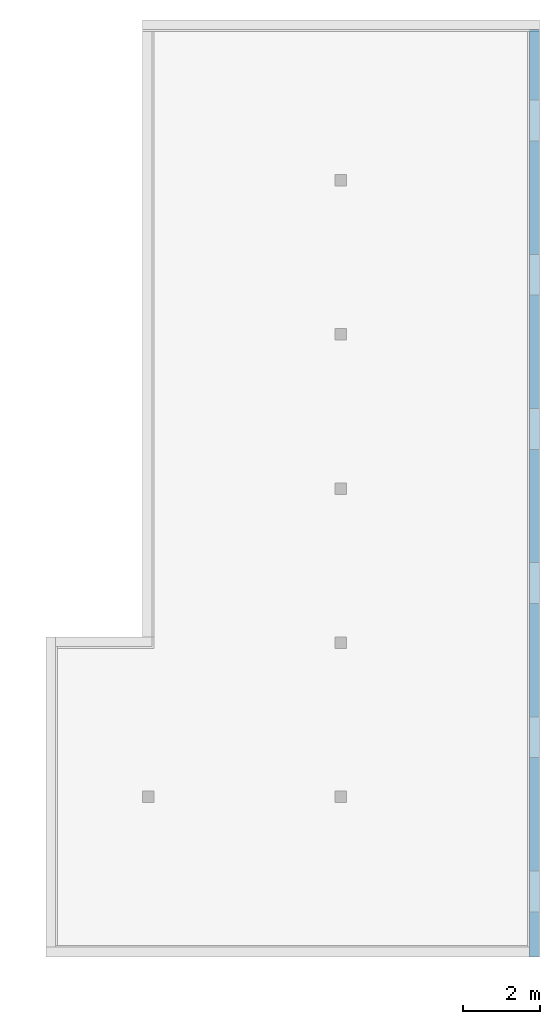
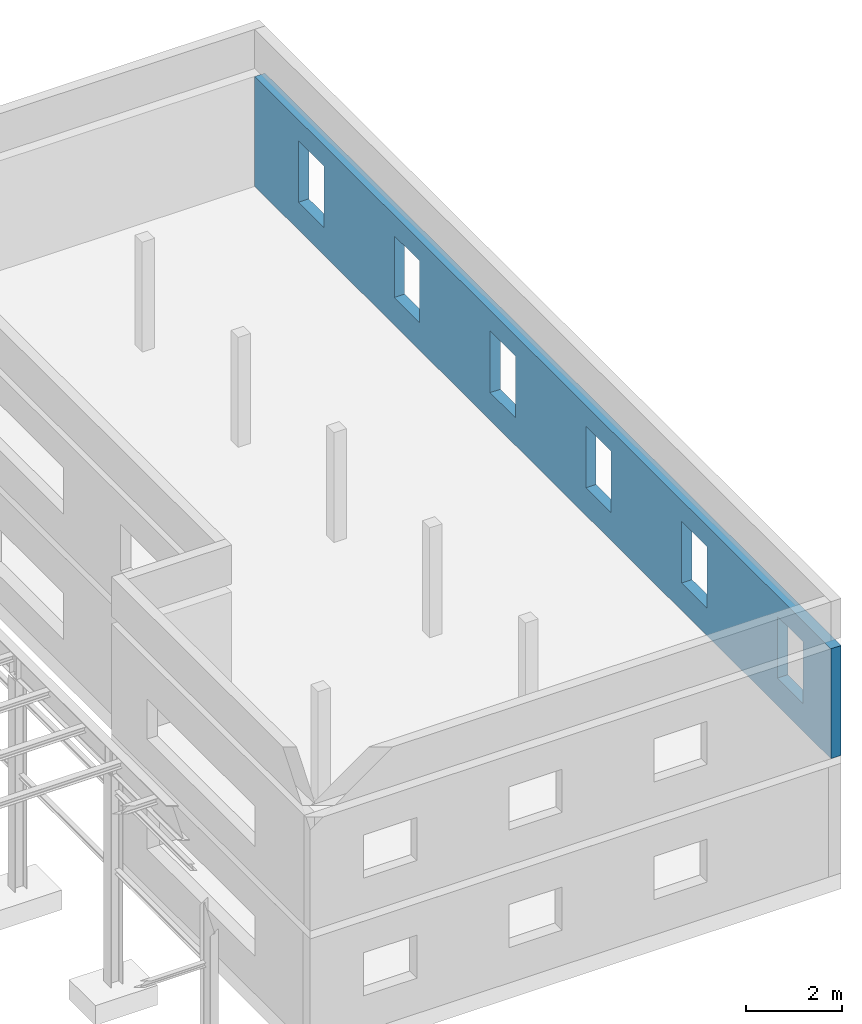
# Not in any storey, part 14 of 50: 1 wall, 6 openings.
"""IFC4 model written with IfcOpenShell, lengths in metres."""

from ifc_helpers import new_model, entity, si_unit, converted_unit, derived_unit, direction, frame, origin, place, context, subcontext, project, spatial, indexed_curve, outline, extrude, polygons, material, type_object, element, save


model = new_model("IFC4")

# Units and contexts
model_context = context("Model", 3, precision=1e-05, world=origin(), true_north=direction((6.123233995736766e-17, 1.0)))
body_context = subcontext(model_context, "Body", "Model", "MODEL_VIEW")
ifc_project = project(units=[si_unit("LENGTHUNIT", "METRE"), si_unit("AREAUNIT", "SQUARE_METRE"), converted_unit("PLANEANGLEUNIT", "DEGREE", entity("IfcPlaneAngleMeasure", 0.017453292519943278), si_unit("PLANEANGLEUNIT", "RADIAN"), dimensions=[0, 0, 0, 0, 0, 0, 0]), si_unit("VOLUMEUNIT", "CUBIC_METRE"), derived_unit("THERMALTRANSMITTANCEUNIT", [(si_unit("MASSUNIT", "GRAM", prefix="KILO"), 1), (si_unit("THERMODYNAMICTEMPERATUREUNIT", "KELVIN"), -1), (si_unit("TIMEUNIT", "SECOND"), -3)])], contexts=[model_context])

# Site
site_placement = place(None, origin())
site = spatial("IfcSite", under=ifc_project, at=site_placement, Name="Default", CompositionType="ELEMENT")

# Wall, openings
ifc_material = material(Name="Ortbeton - bewehrt Verputzt", Category="Generisch")
wall_type = type_object("IfcWallType", Name="Basiswand:STB 250", PredefinedType="STANDARD")
wall_placement = place(site_placement, frame((38.2151448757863, 25.838267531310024, 3.0), z_axis=(0.0, 0.0, 1.0), x_axis=(0.0, -1.0, 0.0)))
wall = element("IfcWall", 1, at=wall_placement, inside=site, type_object=wall_type, material=ifc_material, Name="Basiswand:STB 250", ObjectType="Basiswand:STB 250", PredefinedType="NOTDEFINED", context=body_context, shape_type="Tessellation", body=[
    polygons([(0.0, -0.1249999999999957, 0.0), (23.808500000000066, -0.12499999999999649, 0.0), (24.058500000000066, -0.12499999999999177, 0.0), (24.058500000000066, -0.12499999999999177, 2.8000000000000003), (23.808500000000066, -0.12499999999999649, 2.8000000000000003), (0.0, -0.1249999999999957, 2.8000000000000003), (21.83079737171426, -0.12499999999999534, 2.274516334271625), (22.8909072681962, -0.1250000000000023, 2.274516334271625), (22.8909072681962, -0.1250000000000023, 0.7032821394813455), (21.83079737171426, -0.12499999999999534, 0.7032821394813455), (17.83079737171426, -0.12499999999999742, 2.274516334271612), (18.8909072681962, -0.12499999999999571, 2.274516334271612), (18.8909072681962, -0.12499999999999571, 0.7032821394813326), (17.83079737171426, -0.12499999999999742, 0.7032821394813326), (13.830797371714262, -0.1249999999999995, 2.274516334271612), (14.8909072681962, -0.12499999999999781, 2.274516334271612), (14.8909072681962, -0.12499999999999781, 0.7032821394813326), (13.830797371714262, -0.1249999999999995, 0.7032821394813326), (9.830797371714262, -0.12499999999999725, 2.274516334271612), (10.8909072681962, -0.12499999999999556, 2.274516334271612), (10.8909072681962, -0.12499999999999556, 0.7032821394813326), (9.830797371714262, -0.12499999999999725, 0.7032821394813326), (5.830797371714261, -0.12499999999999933, 2.274516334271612), (6.890907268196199, -0.12499999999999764, 2.274516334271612), (6.890907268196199, -0.12499999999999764, 0.7032821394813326), (5.830797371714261, -0.12499999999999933, 0.7032821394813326), (1.8307973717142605, -0.12500000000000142, 2.274516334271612), (2.890907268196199, -0.12499999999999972, 2.274516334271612), (2.890907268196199, -0.12499999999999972, 0.7032821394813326), (1.8307973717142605, -0.12500000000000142, 0.7032821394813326), (24.058500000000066, 0.1250000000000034, 0.0), (0.0, 0.12500000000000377, 0.0), (0.0, 0.12500000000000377, 2.8000000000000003), (24.058500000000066, 0.1250000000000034, 2.8000000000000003), (22.8909072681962, 0.12500000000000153, 2.274516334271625), (21.83079737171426, 0.12500000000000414, 2.274516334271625), (21.83079737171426, 0.12500000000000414, 0.7032821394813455), (22.8909072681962, 0.12500000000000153, 0.7032821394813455), (18.8909072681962, 0.12500000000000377, 2.274516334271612), (17.83079737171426, 0.12500000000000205, 2.274516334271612), (17.83079737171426, 0.12500000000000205, 0.7032821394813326), (18.8909072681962, 0.12500000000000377, 0.7032821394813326), (14.8909072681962, 0.125000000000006, 2.274516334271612), (13.830797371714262, 0.1250000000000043, 2.274516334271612), (13.830797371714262, 0.1250000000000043, 0.7032821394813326), (14.8909072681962, 0.125000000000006, 0.7032821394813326), (10.8909072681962, 0.1250000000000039, 2.274516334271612), (9.830797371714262, 0.12500000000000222, 2.274516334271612), (9.830797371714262, 0.12500000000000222, 0.7032821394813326), (10.8909072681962, 0.1250000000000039, 0.7032821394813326), (6.890907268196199, 0.12500000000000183, 2.274516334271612), (5.830797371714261, 0.12500000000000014, 2.274516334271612), (5.830797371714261, 0.12500000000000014, 0.7032821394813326), (6.890907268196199, 0.12500000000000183, 0.7032821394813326), (2.890907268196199, 0.12500000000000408, 2.274516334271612), (1.8307973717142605, 0.1250000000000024, 2.274516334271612), (1.8307973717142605, 0.1250000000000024, 0.7032821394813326), (2.890907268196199, 0.12500000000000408, 0.7032821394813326)], [[[1, 2, 3, 4, 5, 6], [7, 8, 9, 10], [11, 12, 13, 14], [15, 16, 17, 18], [19, 20, 21, 22], [23, 24, 25, 26], [27, 28, 29, 30]], [[31, 32, 33, 34], [35, 36, 37, 38], [39, 40, 41, 42], [43, 44, 45, 46], [47, 48, 49, 50], [51, 52, 53, 54], [55, 56, 57, 58]], [[3, 2, 1, 32, 31]], [[1, 6, 33, 32]], [[4, 3, 31, 34]], [[6, 5, 4, 34, 33]], [[7, 36, 35, 8]], [[9, 38, 37, 10]], [[36, 7, 10, 37]], [[8, 35, 38, 9]], [[11, 40, 39, 12]], [[13, 42, 41, 14]], [[40, 11, 14, 41]], [[12, 39, 42, 13]], [[15, 44, 43, 16]], [[17, 46, 45, 18]], [[44, 15, 18, 45]], [[16, 43, 46, 17]], [[19, 48, 47, 20]], [[21, 50, 49, 22]], [[48, 19, 22, 49]], [[20, 47, 50, 21]], [[23, 52, 51, 24]], [[25, 54, 53, 26]], [[52, 23, 26, 53]], [[24, 51, 54, 25]], [[27, 56, 55, 28]], [[29, 58, 57, 30]], [[56, 27, 30, 57]], [[28, 55, 58, 29]]], closed=True),
])
opening_1_placement = place(wall_placement, origin())
element("IfcOpeningElement", 2, at=opening_1_placement, cuts=wall, Name="Basiswand:STB 250", PredefinedType="OPENING", context=body_context, shape_type="SweptSolid", body=[
    extrude(outline(indexed_curve([(-0.78561709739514, -0.5300549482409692), (0.78561709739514, -0.5300549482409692), (0.78561709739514, 0.5300549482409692), (-0.78561709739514, 0.5300549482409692), (-0.78561709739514, -0.5300549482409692)], self_intersect=False)), frame((22.36085231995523, -0.12499999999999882, 1.488899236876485), z_axis=(0.0, 1.0, 0.0), x_axis=(0.0, 0.0, -1.0)), (0.0, 0.0, 1.0), 0.24999999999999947),
])
opening_2_placement = place(wall_placement, origin())
element("IfcOpeningElement", 3, at=opening_2_placement, cuts=wall, Name="Basiswand:STB 250", PredefinedType="OPENING", context=body_context, shape_type="SweptSolid", body=[
    extrude(outline(indexed_curve([(-0.78561709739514, -0.5300549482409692), (0.78561709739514, -0.5300549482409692), (0.78561709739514, 0.5300549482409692), (-0.78561709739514, 0.5300549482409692), (-0.78561709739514, -0.5300549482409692)], self_intersect=False)), frame((18.36085231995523, -0.12500000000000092, 1.488899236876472), z_axis=(0.0, 1.0, 0.0), x_axis=(0.0, 0.0, -1.0)), (0.0, 0.0, 1.0), 0.25000000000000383),
])
opening_3_placement = place(wall_placement, origin())
element("IfcOpeningElement", 4, at=opening_3_placement, cuts=wall, Name="Basiswand:STB 250", PredefinedType="OPENING", context=body_context, shape_type="SweptSolid", body=[
    extrude(outline(indexed_curve([(-0.78561709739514, -0.5300549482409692), (0.78561709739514, -0.5300549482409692), (0.78561709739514, 0.5300549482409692), (-0.78561709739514, 0.5300549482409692), (-0.78561709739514, -0.5300549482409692)], self_intersect=False)), frame((14.36085231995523, -0.125000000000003, 1.488899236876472), z_axis=(0.0, 1.0, 0.0), x_axis=(0.0, 0.0, -1.0)), (0.0, 0.0, 1.0), 0.24999999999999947),
])
opening_4_placement = place(wall_placement, origin())
element("IfcOpeningElement", 5, at=opening_4_placement, cuts=wall, Name="Basiswand:STB 250", PredefinedType="OPENING", context=body_context, shape_type="SweptSolid", body=[
    extrude(outline(indexed_curve([(-0.78561709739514, -0.5300549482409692), (0.78561709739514, -0.5300549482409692), (0.78561709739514, 0.5300549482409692), (-0.78561709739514, 0.5300549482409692), (-0.78561709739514, -0.5300549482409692)], self_intersect=False)), frame((10.36085231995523, -0.12500000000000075, 1.488899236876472), z_axis=(0.0, 1.0, 0.0), x_axis=(0.0, 0.0, -1.0)), (0.0, 0.0, 1.0), 0.25000000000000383),
])
opening_5_placement = place(wall_placement, origin())
element("IfcOpeningElement", 6, at=opening_5_placement, cuts=wall, Name="Basiswand:STB 250", PredefinedType="OPENING", context=body_context, shape_type="SweptSolid", body=[
    extrude(outline(indexed_curve([(-0.78561709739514, -0.5300549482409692), (0.78561709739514, -0.5300549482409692), (0.78561709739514, 0.5300549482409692), (-0.78561709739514, 0.5300549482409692), (-0.78561709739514, -0.5300549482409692)], self_intersect=False)), frame((6.36085231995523, -0.12499999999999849, 1.488899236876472), z_axis=(0.0, 1.0, 0.0), x_axis=(0.0, 0.0, -1.0)), (0.0, 0.0, 1.0), 0.24999999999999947),
])
opening_6_placement = place(wall_placement, origin())
element("IfcOpeningElement", 7, at=opening_6_placement, cuts=wall, Name="Basiswand:STB 250", PredefinedType="OPENING", context=body_context, shape_type="SweptSolid", body=[
    extrude(outline(indexed_curve([(-0.78561709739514, -0.5300549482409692), (0.78561709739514, -0.5300549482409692), (0.78561709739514, 0.5300549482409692), (-0.78561709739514, 0.5300549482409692), (-0.78561709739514, -0.5300549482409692)], self_intersect=False)), frame((2.36085231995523, -0.12500000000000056, 1.488899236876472), z_axis=(0.0, 1.0, 0.0), x_axis=(0.0, 0.0, -1.0)), (0.0, 0.0, 1.0), 0.25000000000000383),
])

save(model, "model.ifc")
